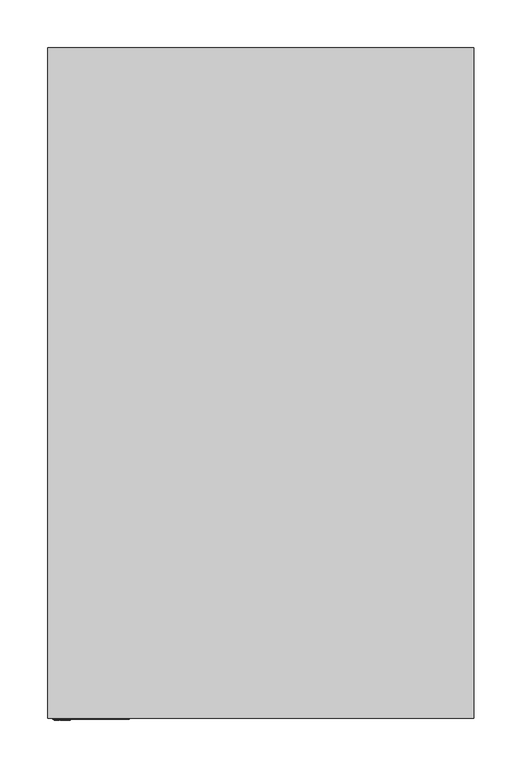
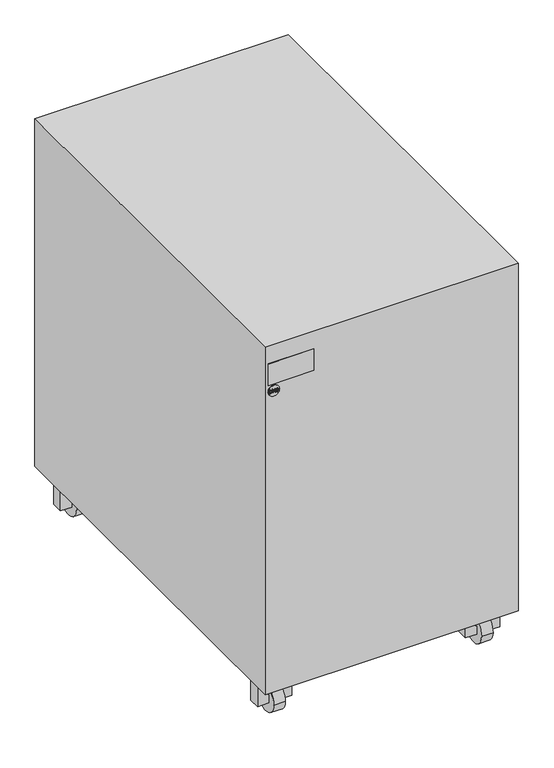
"""IFC4 building model written with IfcOpenShell, lengths in millimetres: proxy geometry, НВО_КНС_ИБПTrioTM_DKC : TRIOTM10A60."""

from ifc_helpers import new_model, si_unit, point, frame, frame_2d, origin, place, context, project, spatial, polyline, circle_curve, trimmed, segment, composite_curve, outline, extrude, source, transform, mapped, element, save


def electrical_equipment_41b7a089(model_context):
    return source(origin(), model_context, "Body", "SweptSolid", [
        extrude(outline(polyline([(50.3347717, -157.1652283), (35.0, -172.5), (20.0, -172.5), (20.0, -152.5), (70.0, -152.5), (70.0, -157.1652283), (50.3347717, -157.1652283)])), frame((0.0, 640.0, 0.0), z_axis=(0.0, 1.0, 0.0), x_axis=(0.0, 0.0, 1.0)), (0.0, 0.0, 1.0), 20.0),
        extrude(outline(polyline([(50.3347717, -207.8347717), (70.0, -207.8347717), (70.0, -212.5), (20.0, -212.5), (20.0, -192.5), (35.0, -192.5), (50.3347717, -207.8347717)])), frame((0.0, 640.0, 0.0), z_axis=(0.0, 1.0, 0.0), x_axis=(0.0, 0.0, 1.0)), (0.0, 0.0, 1.0), 20.0),
        extrude(outline(composite_curve([segment(trimmed(circle_curve(frame_2d((650.0, 25.0)), 25.0), [point((675.0, 25.0))], [point((625.0, 25.0))], False, "CARTESIAN"), True, "CONTINUOUS"), segment(trimmed(circle_curve(frame_2d((650.0, 25.0)), 25.0), [point((625.0, 25.0))], [point((675.0, 25.0))], False, "CARTESIAN"), True, "CONTINUOUS")], self_intersect=False)), frame((-192.5, 0.0, 0.0), z_axis=(1.0, 0.0, 0.0), x_axis=(0.0, 1.0, 0.0)), (0.0, 0.0, 1.0), 20.0),
        extrude(outline(polyline([(50.3347717, -157.1652283), (35.0, -172.5), (20.0, -172.5), (20.0, -152.5), (70.0, -152.5), (70.0, -157.1652283), (50.3347717, -157.1652283)])), frame((0.0, 40.0, 0.0), z_axis=(0.0, 1.0, 0.0), x_axis=(0.0, 0.0, 1.0)), (0.0, 0.0, 1.0), 20.0),
        extrude(outline(polyline([(50.3347717, -207.8347717), (70.0, -207.8347717), (70.0, -212.5), (20.0, -212.5), (20.0, -192.5), (35.0, -192.5), (50.3347717, -207.8347717)])), frame((0.0, 40.0, 0.0), z_axis=(0.0, 1.0, 0.0), x_axis=(0.0, 0.0, 1.0)), (0.0, 0.0, 1.0), 20.0),
        extrude(outline(composite_curve([segment(trimmed(circle_curve(frame_2d((50.0, 25.0)), 25.0), [point((75.0, 25.0))], [point((25.0, 25.0))], False, "CARTESIAN"), True, "CONTINUOUS"), segment(trimmed(circle_curve(frame_2d((50.0, 25.0)), 25.0), [point((25.0, 25.0))], [point((75.0, 25.0))], False, "CARTESIAN"), True, "CONTINUOUS")], self_intersect=False)), frame((-192.5, 0.0, 0.0), z_axis=(1.0, 0.0, 0.0), x_axis=(0.0, 1.0, 0.0)), (0.0, 0.0, 1.0), 20.0),
        extrude(outline(polyline([(50.3347717, 207.8347717), (35.0, 192.5), (20.0, 192.5), (20.0, 212.5), (70.0, 212.5), (70.0, 207.8347717), (50.3347717, 207.8347717)])), frame((0.0, 640.0, 0.0), z_axis=(0.0, 1.0, 0.0), x_axis=(0.0, 0.0, 1.0)), (0.0, 0.0, 1.0), 20.0),
        extrude(outline(polyline([(50.3347717, 157.1652283), (70.0, 157.1652283), (70.0, 152.5), (20.0, 152.5), (20.0, 172.5), (35.0, 172.5), (50.3347717, 157.1652283)])), frame((0.0, 640.0, 0.0), z_axis=(0.0, 1.0, 0.0), x_axis=(0.0, 0.0, 1.0)), (0.0, 0.0, 1.0), 20.0),
        extrude(outline(composite_curve([segment(trimmed(circle_curve(frame_2d((650.0, 25.0)), 25.0), [point((675.0, 25.0))], [point((625.0, 25.0))], False, "CARTESIAN"), True, "CONTINUOUS"), segment(trimmed(circle_curve(frame_2d((650.0, 25.0)), 25.0), [point((625.0, 25.0))], [point((675.0, 25.0))], False, "CARTESIAN"), True, "CONTINUOUS")], self_intersect=False)), frame((172.5, 0.0, 0.0), z_axis=(1.0, 0.0, 0.0), x_axis=(0.0, 1.0, 0.0)), (0.0, 0.0, 1.0), 20.0),
        extrude(outline(polyline([(50.3347717, 207.8347717), (35.0, 192.5), (20.0, 192.5), (20.0, 212.5), (70.0, 212.5), (70.0, 207.8347717), (50.3347717, 207.8347717)])), frame((0.0, 40.0, 0.0), z_axis=(0.0, 1.0, 0.0), x_axis=(0.0, 0.0, 1.0)), (0.0, 0.0, 1.0), 20.0),
        extrude(outline(polyline([(50.3347717, 157.1652283), (70.0, 157.1652283), (70.0, 152.5), (20.0, 152.5), (20.0, 172.5), (35.0, 172.5), (50.3347717, 157.1652283)])), frame((0.0, 40.0, 0.0), z_axis=(0.0, 1.0, 0.0), x_axis=(0.0, 0.0, 1.0)), (0.0, 0.0, 1.0), 20.0),
        extrude(outline(composite_curve([segment(trimmed(circle_curve(frame_2d((50.0, 25.0)), 25.0), [point((75.0, 25.0))], [point((25.0, 25.0))], False, "CARTESIAN"), True, "CONTINUOUS"), segment(trimmed(circle_curve(frame_2d((50.0, 25.0)), 25.0), [point((25.0, 25.0))], [point((75.0, 25.0))], False, "CARTESIAN"), True, "CONTINUOUS")], self_intersect=False)), frame((172.5, 0.0, 0.0), z_axis=(1.0, 0.0, 0.0), x_axis=(0.0, 1.0, 0.0)), (0.0, 0.0, 1.0), 20.0),
        extrude(outline(polyline([(627.0, -215.6463789), (627.0, -213.467046), (627.103007, -212.4980448), (627.9520786, -211.2273804), (628.829845, -210.8153525), (630.0460629, -210.654956), (631.4793312, -210.891872), (632.5094008, -211.6055631), (632.9405585, -212.4914229), (633.0273786, -213.5671099), (633.0273786, -215.6463789), (627.0, -215.6463789)]), holes=[polyline([(627.7534223, -214.8929566), (632.2739563, -214.8929566), (632.2739563, -213.5803536), (632.153291, -212.5120243), (631.4852173, -211.7299072), (630.0578351, -211.4083783), (628.9181367, -211.5724537), (627.8623154, -212.5900153), (627.7534223, -213.5597522), (627.7534223, -214.8929566)])]), frame((0.0, -2.0, 0.0), z_axis=(0.0, 1.0, 0.0), x_axis=(0.0, 0.0, 1.0)), (0.0, 0.0, 1.0), 6.0),
        extrude(outline(polyline([(627.0, -209.2422891), (629.0719114, -208.865578), (630.0401768, -207.8502237), (627.0, -205.5487539), (627.0, -204.6275774), (630.5493255, -207.316059), (633.0273786, -204.7217552), (633.0273786, -205.7753692), (630.076965, -208.865578), (633.0273786, -209.6190003), (627.0, -209.2422891)])), frame((0.0, -2.0, 0.0), z_axis=(0.0, 1.0, 0.0), x_axis=(0.0, 0.0, 1.0)), (0.0, 0.0, 1.0), 6.0),
        extrude(outline(polyline([(629.1425447, -199.8245101), (628.0330126, -200.463889), (627.6592445, -201.6168311), (627.9336845, -202.6564657), (628.7628905, -203.3642706), (630.0607782, -203.5916217), (631.180611, -203.3995873), (632.0458694, -202.7337209), (632.3681341, -201.555027), (632.0775073, -200.5367296), (631.3307068, -199.1652655), (632.652139, -200.0165445), (633.1215564, -201.5255964), (632.7588248, -202.9735799), (631.6971173, -203.9881985), (630.0593067, -204.345044), (628.4479835, -204.0294013), (627.3016632, -203.1096963), (626.9058222, -201.5417832), (627.4289504, -199.9643052), (629.1425447, -199.8245101)])), frame((0.0, -2.0, 0.0), z_axis=(0.0, 1.0, 0.0), x_axis=(0.0, 0.0, 1.0)), (0.0, 0.0, 1.0), 6.0),
        extrude(outline(composite_curve([segment(trimmed(circle_curve(frame_2d((630.0, -207.5)), 10.0), [point((630.0, -217.5))], [point((630.0, -197.5))], False, "CARTESIAN"), True, "CONTINUOUS"), segment(trimmed(circle_curve(frame_2d((630.0, -207.5)), 10.0), [point((630.0, -197.5))], [point((630.0, -217.5))], False, "CARTESIAN"), True, "CONTINUOUS")], self_intersect=False)), frame((0.0, -1.0, 0.0), z_axis=(0.0, 1.0, 0.0), x_axis=(0.0, 0.0, 1.0)), (0.0, 0.0, 1.0), 10.0),
        extrude(outline(polyline([(222.5, 0.0), (-222.5, 0.0), (-222.5, 700.0), (222.5, 700.0), (222.5, 0.0)])), frame((0.0, 0.0, 70.0), z_axis=(0.0, 0.0, 1.0), x_axis=(1.0, 0.0, 0.0)), (0.0, 0.0, 1.0), 645.0),
        extrude(outline(polyline([(-137.5, -1.0), (-217.5, -1.0), (-217.5, 0.0), (-137.5, 0.0), (-137.5, -1.0)])), frame((0.0, 0.0, 643.0), z_axis=(0.0, 0.0, 1.0), x_axis=(1.0, 0.0, 0.0)), (0.0, 0.0, 1.0), 40.0),
    ])


if __name__ == "__main__":
    model = new_model("IFC4")
    model_context = context("Model", 3, world=origin())
    ifc_project = project(units=[si_unit("LENGTHUNIT", "METRE", prefix="MILLI")], contexts=[model_context])
    site = spatial("IfcSite", under=ifc_project)
    building = spatial("IfcBuilding", under=site)
    placement = place(None, origin())
    electrical_equipment_shape = electrical_equipment_41b7a089(model_context)
    element("IfcBuildingElementProxy", 1, Name="НВО_КНС_ИБПTrioTM_DKC : TRIOTM10A60", ObjectType="НВО_КНС_ИБПTrioTM_DKC : TRIOTM10A60", at=placement, inside=building, context=model_context, shape_type="MappedRepresentation", body=[
        mapped(electrical_equipment_shape, transform((0.0, 0.0, 0.0), x_axis=(1.0, 0.0, 0.0), y_axis=(0.0, 1.0, 0.0), z_axis=(0.0, 0.0, 1.0))),
    ])
    save(model, "model.ifc")
